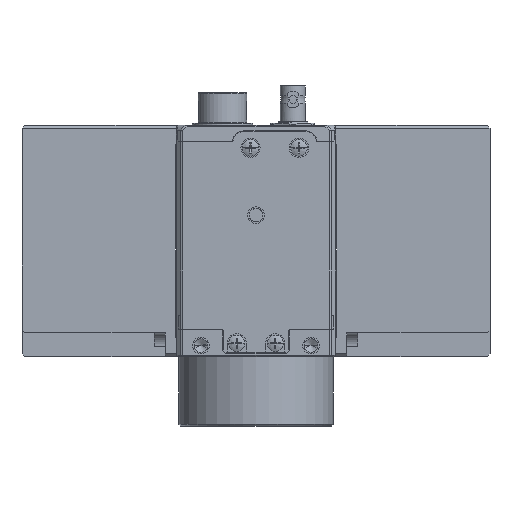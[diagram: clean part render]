
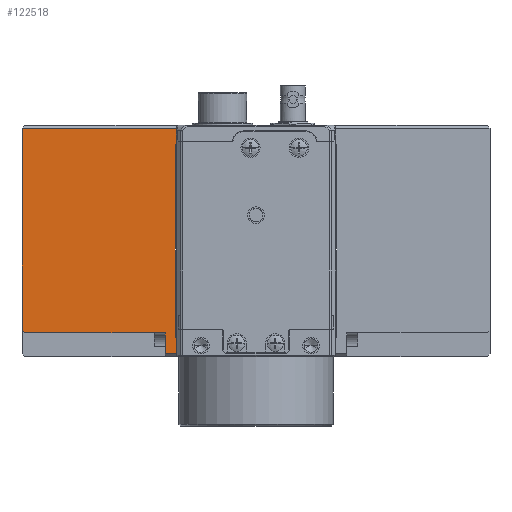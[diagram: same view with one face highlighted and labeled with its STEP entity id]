
A CAD part, front view. The second image highlights one B-rep face of the part: STEP entity #122518.
In plain terms, the highlighted planar face has unit normal (0, -1, 0) as drawn and (1, 0, 0) by its records, which use the part's own axes.
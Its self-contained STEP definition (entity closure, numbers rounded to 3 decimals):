
#121271=DIRECTION('',(0.,0.,-1.));
#121272=VECTOR('',#121271,2.9);
#121273=CARTESIAN_POINT('',(13.36,0.,-17.5));
#121274=LINE('',#121273,#121272);
#121311=DIRECTION('',(0.,0.,-1.));
#121312=VECTOR('',#121311,3.);
#121313=CARTESIAN_POINT('',(13.36,0.,20.5));
#121314=LINE('',#121313,#121312);
#121447=DIRECTION('',(0.,0.,1.));
#121448=VECTOR('',#121447,35.);
#121449=CARTESIAN_POINT('',(13.36,0.15,-17.5));
#121450=LINE('',#121449,#121448);
#121451=DIRECTION('',(0.,1.,0.));
#121452=VECTOR('',#121451,0.15);
#121453=CARTESIAN_POINT('',(13.36,0.,17.5));
#121454=LINE('',#121453,#121452);
#121455=DIRECTION('',(0.,-1.,0.));
#121456=VECTOR('',#121455,2.);
#121457=CARTESIAN_POINT('',(13.36,2.,20.5));
#121458=LINE('',#121457,#121456);
#121459=DIRECTION('',(0.,0.,-1.));
#121460=VECTOR('',#121459,3.8);
#121461=CARTESIAN_POINT('',(13.36,2.,20.5));
#121462=LINE('',#121461,#121460);
#121463=DIRECTION('',(0.,-0.707,0.707));
#121464=VECTOR('',#121463,0.707);
#121465=CARTESIAN_POINT('',(13.36,28.,16.2));
#121466=LINE('',#121465,#121464);
#121467=DIRECTION('',(0.,-1.,0.));
#121468=VECTOR('',#121467,28.);
#121469=CARTESIAN_POINT('',(13.36,28.,-20.4));
#121470=LINE('',#121469,#121468);
#121471=DIRECTION('',(0.,1.,0.));
#121472=VECTOR('',#121471,0.15);
#121473=CARTESIAN_POINT('',(13.36,0.,-17.5));
#121474=LINE('',#121473,#121472);
#121591=DIRECTION('',(0.,0.,-1.));
#121592=VECTOR('',#121591,36.6);
#121593=CARTESIAN_POINT('',(13.36,28.,16.2));
#121594=LINE('',#121593,#121592);
#121815=DIRECTION('',(0.,-1.,0.));
#121816=VECTOR('',#121815,25.5);
#121817=CARTESIAN_POINT('',(13.36,27.5,16.7));
#121818=LINE('',#121817,#121816);
#122111=CARTESIAN_POINT('',(13.36,2.,16.7));
#122112=VERTEX_POINT('',#122111);
#122119=CARTESIAN_POINT('',(13.36,0.,20.5));
#122121=VERTEX_POINT('',#122119);
#122125=CARTESIAN_POINT('',(13.36,2.,20.5));
#122126=VERTEX_POINT('',#122125);
#122136=CARTESIAN_POINT('',(13.36,0.,-20.4));
#122138=VERTEX_POINT('',#122136);
#122139=CARTESIAN_POINT('',(13.36,28.,-20.4));
#122140=VERTEX_POINT('',#122139);
#122171=CARTESIAN_POINT('',(13.36,28.,16.2));
#122172=CARTESIAN_POINT('',(13.36,27.5,16.7));
#122173=VERTEX_POINT('',#122171);
#122174=VERTEX_POINT('',#122172);
#122244=CARTESIAN_POINT('',(13.36,0.,-17.5));
#122246=VERTEX_POINT('',#122244);
#122248=CARTESIAN_POINT('',(13.36,0.,17.5));
#122250=VERTEX_POINT('',#122248);
#122251=CARTESIAN_POINT('',(13.36,0.15,-17.5));
#122252=CARTESIAN_POINT('',(13.36,0.15,17.5));
#122253=VERTEX_POINT('',#122251);
#122254=VERTEX_POINT('',#122252);
#122493=CARTESIAN_POINT('',(13.36,0.,21.));
#122494=DIRECTION('',(1.,0.,0.));
#122495=DIRECTION('',(0.,0.,-1.));
#122496=AXIS2_PLACEMENT_3D('',#122493,#122494,#122495);
#122497=PLANE('',#122496);
#122499=ORIENTED_EDGE('',*,*,#122498,.T.);
#122501=ORIENTED_EDGE('',*,*,#122500,.F.);
#122502=ORIENTED_EDGE('',*,*,#122306,.F.);
#122504=ORIENTED_EDGE('',*,*,#122503,.F.);
#122505=ORIENTED_EDGE('',*,*,#122404,.T.);
#122507=ORIENTED_EDGE('',*,*,#122506,.F.);
#122508=ORIENTED_EDGE('',*,*,#122483,.F.);
#122510=ORIENTED_EDGE('',*,*,#122509,.T.);
#122512=ORIENTED_EDGE('',*,*,#122511,.T.);
#122513=ORIENTED_EDGE('',*,*,#122266,.F.);
#122515=ORIENTED_EDGE('',*,*,#122514,.T.);
#122516=EDGE_LOOP('',(#122499,#122501,#122502,#122504,#122505,#122507,#122508,
#122510,#122512,#122513,#122515));
#122517=FACE_OUTER_BOUND('',#122516,.F.);
#122518=ADVANCED_FACE('',(#122517),#122497,.T.);
#122266=EDGE_CURVE('',#122246,#122138,#121274,.T.);
#122306=EDGE_CURVE('',#122121,#122250,#121314,.T.);
#122404=EDGE_CURVE('',#122126,#122112,#121462,.T.);
#122483=EDGE_CURVE('',#122173,#122174,#121466,.T.);
#122498=EDGE_CURVE('',#122253,#122254,#121450,.T.);
#122500=EDGE_CURVE('',#122250,#122254,#121454,.T.);
#122503=EDGE_CURVE('',#122126,#122121,#121458,.T.);
#122506=EDGE_CURVE('',#122174,#122112,#121818,.T.);
#122509=EDGE_CURVE('',#122173,#122140,#121594,.T.);
#122511=EDGE_CURVE('',#122140,#122138,#121470,.T.);
#122514=EDGE_CURVE('',#122246,#122253,#121474,.T.);
